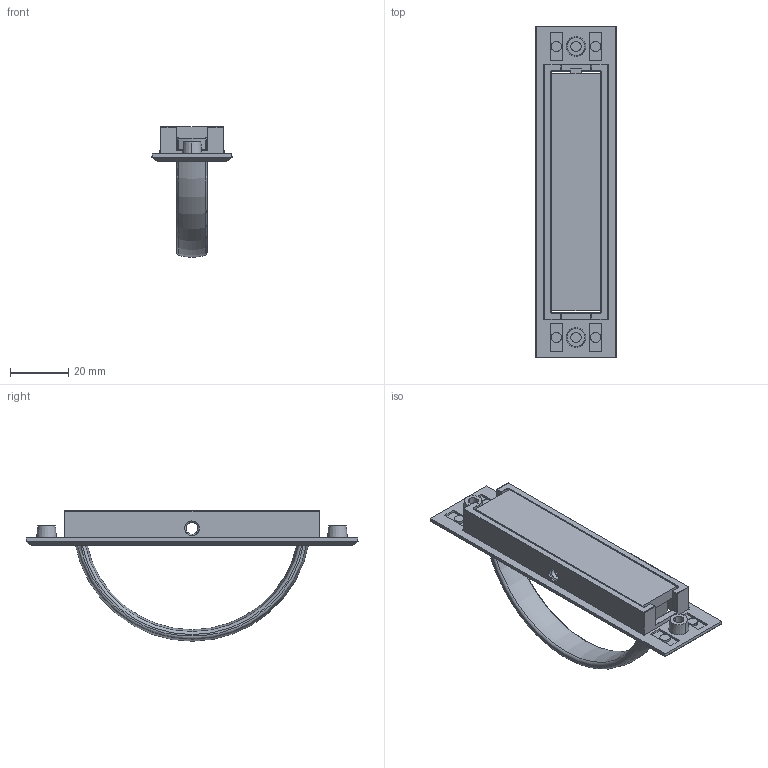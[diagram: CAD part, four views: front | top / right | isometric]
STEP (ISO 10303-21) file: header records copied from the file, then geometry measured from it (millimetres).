
FILE_DESCRIPTION((''),'2;1');
FILE_NAME('56_ASM_3_ASM','2018-10-04T',('aef6'),(''),'PRO/ENGINEER BY PARAMETRIC TECHNOLOGY CORPORATION, 2010040','PRO/ENGINEER BY PARAMETRIC TECHNOLOGY CORPORATION, 2010040','');
FILE_SCHEMA(('AUTOMOTIVE_DESIGN_CC2 { 1 2 10303 214 -1 1 5 2 }'));
Length unit declared in the file: millimetre
Products named in the file (3): 5_9; 6_10; 56_ASM_3_ASM
Assembly tree (2 placements, depth 2):
  56_ASM_3_ASM
    5_9
    6_10
Bounding box: 27.5 x 113.9 x 44.75 mm (x, y, z)
Volume: 18611.2 mm3; surface area: 15268 mm2
Topology: 2 solids, 2 shells, 345 faces, 900 edges, 561 vertices
Faces by surface type: plane 191, cylinder 97, bspline 16, sphere 15, torus 14, cone 12
Entity records: 11137 total; most frequent: CARTESIAN_POINT 2724, ORIENTED_EDGE 1772, DIRECTION 1689, EDGE_CURVE 886, VECTOR 603, LINE 603, VERTEX_POINT 561, AXIS2_PLACEMENT_3D 543
